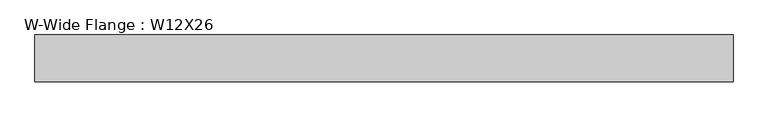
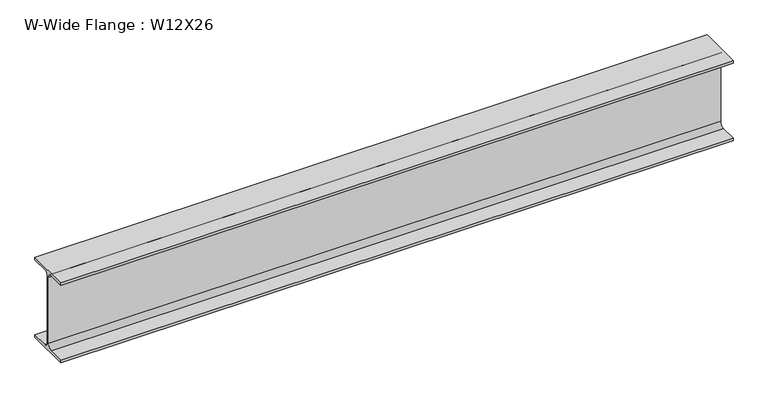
"""IFC4 building model written with IfcOpenShell, lengths in millimetres: beam geometry, W-Wide Flange : W12X26."""

from ifc_helpers import new_model, si_unit, point, frame, frame_2d, origin, place, context, project, spatial, polyline, circle_curve, trimmed, segment, composite_curve, outline, extrude, source, transform, mapped, element, save


def w_wide_flange_w12x26_9b0e6c77(model_context):
    return source(origin(), model_context, "Body", "SweptSolid", [
        extrude(outline(composite_curve([segment(polyline([(82.4011719, -145.5539063), (82.4011719, -155.178125), (-82.4011719, -155.178125), (-82.4011719, -145.5539063), (-20.2902344, -145.5539063)]), True, "CONTINUOUS"), segment(trimmed(circle_curve(frame_2d((-20.2902344, -128.190625)), 17.3632812), [point((-20.2902344, -145.5539063))], [point((-2.9269531, -128.190625))], True, "CARTESIAN"), True, "CONTINUOUS"), segment(polyline([(-2.9269531, -128.190625), (-2.9269531, 128.190625)]), True, "CONTINUOUS"), segment(trimmed(circle_curve(frame_2d((-20.2902344, 128.190625)), 17.3632812), [point((-2.9269531, 128.190625))], [point((-20.2902344, 145.5539062))], True, "CARTESIAN"), True, "CONTINUOUS"), segment(polyline([(-20.2902344, 145.5539062), (-82.4011719, 145.5539062), (-82.4011719, 155.178125), (82.4011719, 155.178125), (82.4011719, 145.5539062), (20.2902344, 145.5539062)]), True, "CONTINUOUS"), segment(trimmed(circle_curve(frame_2d((20.2902344, 128.190625)), 17.3632812), [point((20.2902344, 145.5539062))], [point((2.9269531, 128.190625))], True, "CARTESIAN"), True, "CONTINUOUS"), segment(polyline([(2.9269531, 128.190625), (2.9269531, -128.190625)]), True, "CONTINUOUS"), segment(trimmed(circle_curve(frame_2d((20.2902344, -128.190625)), 17.3632812), [point((2.9269531, -128.190625))], [point((20.2902344, -145.5539063))], True, "CARTESIAN"), True, "CONTINUOUS"), segment(polyline([(20.2902344, -145.5539063), (82.4011719, -145.5539063)]), True, "CONTINUOUS")], self_intersect=False)), frame((-1232.1480469, 0.0, 0.0), z_axis=(1.0, 0.0, 0.0), x_axis=(0.0, 1.0, 0.0)), (0.0, 0.0, 1.0), 2464.2960937),
    ])


if __name__ == "__main__":
    model = new_model("IFC4")
    model_context = context("Model", 3, world=origin())
    ifc_project = project(units=[si_unit("LENGTHUNIT", "METRE", prefix="MILLI")], contexts=[model_context])
    site = spatial("IfcSite", under=ifc_project)
    building = spatial("IfcBuilding", under=site)
    placement = place(None, origin())
    w_wide_flange_w12x26_shape = w_wide_flange_w12x26_9b0e6c77(model_context)
    element("IfcBeam", 1, ObjectType="W-Wide Flange : W12X26", at=placement, inside=building, context=model_context, shape_type="MappedRepresentation", body=[
        mapped(w_wide_flange_w12x26_shape, transform((0.0, 0.0, 0.0), x_axis=(1.0, 0.0, 0.0), y_axis=(0.0, 1.0, 0.0), z_axis=(0.0, 0.0, 1.0))),
    ])
    save(model, "model.ifc")
